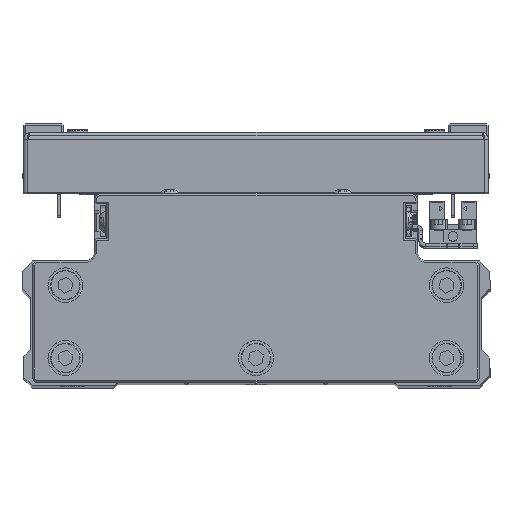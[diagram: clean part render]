
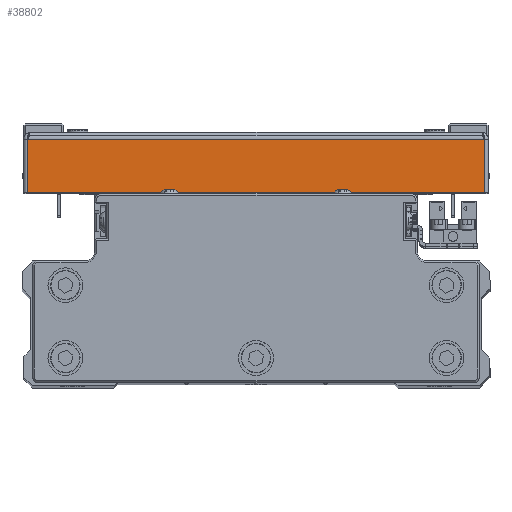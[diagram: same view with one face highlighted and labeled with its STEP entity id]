
A CAD part, top view. The second image highlights one B-rep face of the part: STEP entity #38802.
In plain terms, the highlighted planar face has unit normal (0, 0, 1) as drawn and (1, 0, 0) by its records, which use the part's own axes.
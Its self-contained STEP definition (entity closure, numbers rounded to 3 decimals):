
#452 = VECTOR ( 'NONE', #34672, 1000. ) ;
#706 = CARTESIAN_POINT ( 'NONE',  ( 75., 0., -65.929 ) ) ;
#2231 = LINE ( 'NONE', #15539, #6097 ) ;
#2269 = CARTESIAN_POINT ( 'NONE',  ( 75., 16.5, 65.929 ) ) ;
#3084 = CARTESIAN_POINT ( 'NONE',  ( 75., 16.5, -65.929 ) ) ;
#4623 = CARTESIAN_POINT ( 'NONE',  ( 75., 16.5, 0. ) ) ;
#5969 = DIRECTION ( 'NONE',  ( 0., -1., 0. ) ) ;
#6097 = VECTOR ( 'NONE', #28870, 1000. ) ;
#8027 = LINE ( 'NONE', #21343, #452 ) ;
#9230 = PLANE ( 'NONE',  #12108 ) ;
#9490 = VERTEX_POINT ( 'NONE', #2269 ) ;
#12108 = AXIS2_PLACEMENT_3D ( 'NONE', #22547, #35888, #5969 ) ;
#13528 = CARTESIAN_POINT ( 'NONE',  ( 75., 1., 65.929 ) ) ;
#14010 = DIRECTION ( 'NONE',  ( 0., 1., 0. ) ) ;
#15539 = CARTESIAN_POINT ( 'NONE',  ( 75., 0., 65.929 ) ) ;
#17942 = DIRECTION ( 'NONE',  ( 0., 0., 1. ) ) ;
#21343 = CARTESIAN_POINT ( 'NONE',  ( 75., 1., 67. ) ) ;
#21942 = VECTOR ( 'NONE', #14010, 1000. ) ;
#22547 = CARTESIAN_POINT ( 'NONE',  ( 75., 0., 0. ) ) ;
#22611 = EDGE_CURVE ( 'NONE', #36331, #9490, #34539, .T. ) ;
#23344 = EDGE_CURVE ( 'NONE', #31333, #9490, #2231, .T. ) ;
#23989 = EDGE_CURVE ( 'NONE', #24953, #31333, #8027, .T. ) ;
#24305 = ORIENTED_EDGE ( 'NONE', *, *, #30910, .T. ) ;
#24309 = ORIENTED_EDGE ( 'NONE', *, *, #23344, .F. ) ;
#24953 = VERTEX_POINT ( 'NONE', #31960 ) ;
#26299 = ORIENTED_EDGE ( 'NONE', *, *, #22611, .T. ) ;
#28870 = DIRECTION ( 'NONE',  ( 0., 1., 0. ) ) ;
#30627 = LINE ( 'NONE', #706, #21942 ) ;
#30910 = EDGE_CURVE ( 'NONE', #24953, #36331, #30627, .T. ) ;
#31333 = VERTEX_POINT ( 'NONE', #13528 ) ;
#31960 = CARTESIAN_POINT ( 'NONE',  ( 75., 1., -65.929 ) ) ;
#32320 = ORIENTED_EDGE ( 'NONE', *, *, #23989, .F. ) ;
#34082 = EDGE_LOOP ( 'NONE', ( #32320, #24305, #26299, #24309 ) ) ;
#34539 = LINE ( 'NONE', #4623, #37380 ) ;
#34672 = DIRECTION ( 'NONE',  ( 0., 0., 1. ) ) ;
#35888 = DIRECTION ( 'NONE',  ( -1., 0., 0. ) ) ;
#36331 = VERTEX_POINT ( 'NONE', #3084 ) ;
#37380 = VECTOR ( 'NONE', #17942, 1000. ) ;
#38802 = ADVANCED_FACE ( 'NONE', ( #39148 ), #9230, .F. ) ;
#39148 = FACE_OUTER_BOUND ( 'NONE', #34082, .T. ) ;
